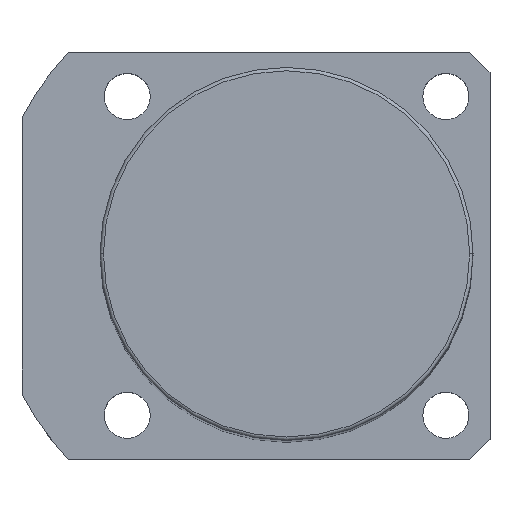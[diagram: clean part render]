
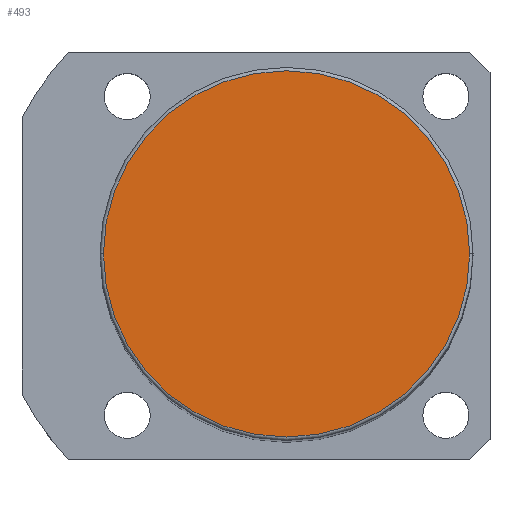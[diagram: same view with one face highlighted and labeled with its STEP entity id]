
A CAD part, top view. The second image highlights one B-rep face of the part: STEP entity #493.
In plain terms, the highlighted planar face has unit normal (0, 0, 1).
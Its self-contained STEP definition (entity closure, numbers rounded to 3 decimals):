
#120 = DIRECTION ( 'NONE',  ( 1., 0., 0. ) ) ;
#258 = AXIS2_PLACEMENT_3D ( 'NONE', #840, #1699, #443 ) ;
#443 = DIRECTION ( 'NONE',  ( 1., 0., 0. ) ) ;
#493 = ADVANCED_FACE ( 'NONE', ( #1744 ), #1286, .T. ) ;
#519 = VERTEX_POINT ( 'NONE', #1165 ) ;
#532 = CARTESIAN_POINT ( 'NONE',  ( 0., 0., 176. ) ) ;
#559 = VERTEX_POINT ( 'NONE', #870 ) ;
#581 = AXIS2_PLACEMENT_3D ( 'NONE', #683, #1128, #1521 ) ;
#683 = CARTESIAN_POINT ( 'NONE',  ( 0., 0., 176. ) ) ;
#706 = EDGE_CURVE ( 'NONE', #519, #559, #775, .T. ) ;
#768 = EDGE_LOOP ( 'NONE', ( #1045, #985 ) ) ;
#775 = CIRCLE ( 'NONE', #1194, 27. ) ;
#840 = CARTESIAN_POINT ( 'NONE',  ( 0., 0., 176. ) ) ;
#870 = CARTESIAN_POINT ( 'NONE',  ( 27., 0., 176. ) ) ;
#985 = ORIENTED_EDGE ( 'NONE', *, *, #706, .T. ) ;
#1045 = ORIENTED_EDGE ( 'NONE', *, *, #1237, .T. ) ;
#1079 = DIRECTION ( 'NONE',  ( 0., 0., 1. ) ) ;
#1128 = DIRECTION ( 'NONE',  ( 0., 0., 1. ) ) ;
#1165 = CARTESIAN_POINT ( 'NONE',  ( -27., 0., 176. ) ) ;
#1194 = AXIS2_PLACEMENT_3D ( 'NONE', #532, #1079, #120 ) ;
#1237 = EDGE_CURVE ( 'NONE', #559, #519, #1787, .T. ) ;
#1286 = PLANE ( 'NONE',  #258 ) ;
#1521 = DIRECTION ( 'NONE',  ( 1., 0., 0. ) ) ;
#1699 = DIRECTION ( 'NONE',  ( 0., 0., 1. ) ) ;
#1744 = FACE_OUTER_BOUND ( 'NONE', #768, .T. ) ;
#1787 = CIRCLE ( 'NONE', #581, 27. ) ;
